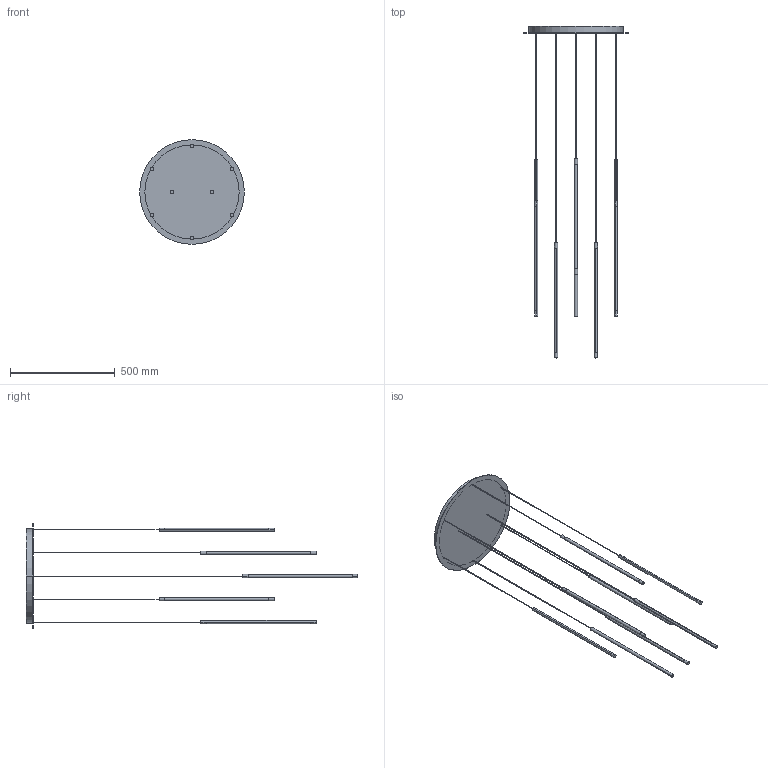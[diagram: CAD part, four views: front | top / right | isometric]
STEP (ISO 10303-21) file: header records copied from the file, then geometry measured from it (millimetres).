
FILE_DESCRIPTION (( 'STEP AP203' ), '1' );
FILE_NAME ('MP14919-xx.STEP', '2019-11-20T20:10:44', ( '' ), ( '' ), 'SwSTEP 2.0', 'SolidWorks 2018', '' );
FILE_SCHEMA (( 'CONFIG_CONTROL_DESIGN' ));
Length unit declared in the file: millimetre
Products named in the file (1): MP14919-xx
Bounding box: 500 x 1585 x 500 mm (x, y, z)
Volume: 6439322.5 mm3; surface area: 709937.5 mm2
Topology: 1 solids, 1 shells, 101 faces, 222 edges, 140 vertices
Faces by surface type: plane 51, cylinder 50
Entity records: 2869 total; most frequent: DIRECTION 534, CARTESIAN_POINT 464, ORIENTED_EDGE 444, EDGE_CURVE 222, AXIS2_PLACEMENT_3D 210, VERTEX_POINT 140, EDGE_LOOP 118, VECTOR 114
